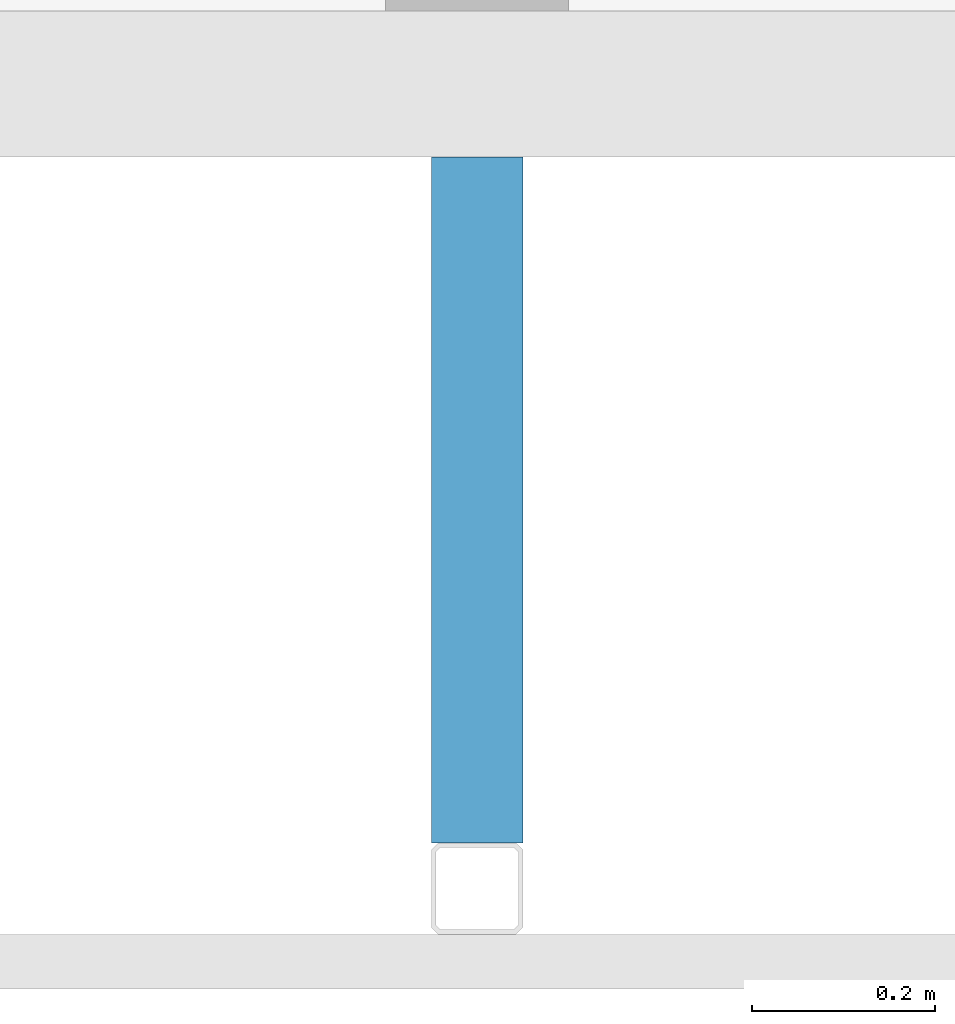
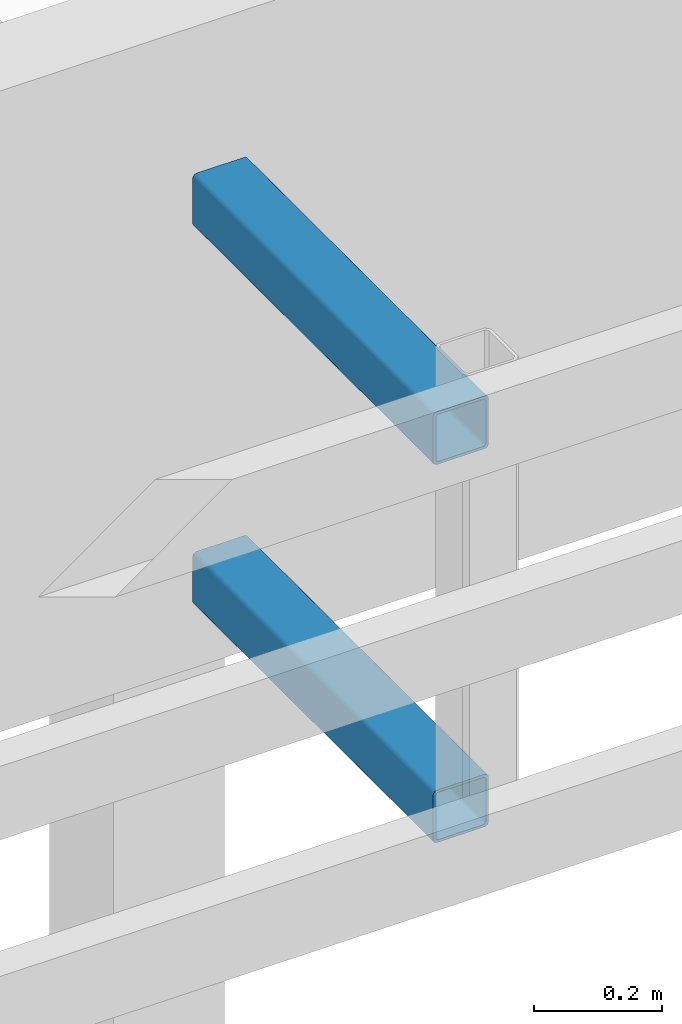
# One storey, part 13 of 44: 2 members.
"""IFC4 building model written with IfcOpenShell, lengths in metres."""

from ifc_helpers import new_model, entity, si_unit, converted_unit, derived_unit, frame, origin, place, context, subcontext, project, spatial, faceted_brep, material, element, save


model = new_model("IFC4")

# Units and contexts
model_context = context("Model", 3, precision=1e-05, world=origin())
plan_context = context("Plan", 2, precision=1e-05, world=origin())
body_context = subcontext(model_context, "Body", "Model", "MODEL_VIEW")
ifc_project = project(units=[si_unit("LENGTHUNIT", "METRE"), si_unit("AREAUNIT", "SQUARE_METRE"), si_unit("VOLUMEUNIT", "CUBIC_METRE"), si_unit("MASSUNIT", "GRAM", prefix="KILO"), converted_unit("PLANEANGLEUNIT", "DEGREE", entity("IfcPlaneAngleMeasure", 0.0174532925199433), si_unit("PLANEANGLEUNIT", "RADIAN"), dimensions=[0, 0, 0, 0, 0, 0, 0]), derived_unit("THERMALTRANSMITTANCEUNIT", [(si_unit("POWERUNIT", "WATT"), 1), (si_unit("THERMODYNAMICTEMPERATUREUNIT", "KELVIN"), -1), (si_unit("LENGTHUNIT", "METRE"), -2)]), derived_unit("VOLUMETRICFLOWRATEUNIT", [(si_unit("LENGTHUNIT", "METRE"), 3), (converted_unit("TIMEUNIT", "hour", entity("IfcTimeMeasure", 3600.0), si_unit("TIMEUNIT", "SECOND"), dimensions=[0, 0, 1, 0, 0, 0, 0]), -1), (si_unit("LENGTHUNIT", "METRE"), -1)])], contexts=[model_context, plan_context])

# Site, building, storey
site_placement = place(None, origin())
site = spatial("IfcSite", under=ifc_project, at=site_placement, Name="Site", CompositionType="ELEMENT")
building_placement = place(site_placement, origin())
building = spatial("IfcBuilding", under=site, at=building_placement, Name="Admin", CompositionType="ELEMENT")
storey_placement = place(building_placement, frame((0.0, 0.0, 3.25)))
storey = spatial("IfcBuildingStorey", under=building, at=storey_placement, Name="01-Etage1", CompositionType="ELEMENT", Elevation=3.25)

# Members
ifc_material_1 = material(Name="S235")
member_1_placement = place(storey_placement, frame((38.1998010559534, 11.1194493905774, 3.54)))
element("IfcMember", 1, at=member_1_placement, inside=storey, material=ifc_material_1, Name="Bandeau R+1", context=body_context, shape_type="Brep", body=[
    faceted_brep([(0.095, 0.0, 0.09), (0.095, 0.0, 0.01), (0.0950000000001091, 0.749999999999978, 0.01), (0.0950000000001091, 0.749999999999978, 0.09), (0.0949240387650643, 0.0, 0.0908682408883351), (0.0949240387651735, 0.749999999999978, 0.0908682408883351), (0.0946984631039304, 0.0, 0.0917101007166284), (0.0946984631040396, 0.749999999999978, 0.0917101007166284), (0.0943301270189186, 0.0, 0.0925), (0.0943301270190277, 0.749999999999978, 0.0925), (0.093830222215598, 0.0, 0.0932139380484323), (0.0938302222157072, 0.749999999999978, 0.0932139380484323), (0.0932139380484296, 1.81898940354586e-15, 0.0938302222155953), (0.0932139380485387, 0.74999999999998, 0.0938302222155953), (0.0925, 1.81898940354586e-15, 0.0943301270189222), (0.0925000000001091, 0.74999999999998, 0.0943301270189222), (0.0917101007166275, 1.81898940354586e-15, 0.0946984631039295), (0.0917101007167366, 0.74999999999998, 0.0946984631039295), (0.0908682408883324, 1.81898940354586e-15, 0.0949240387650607), (0.0908682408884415, 0.74999999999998, 0.0949240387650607), (0.09, 1.81898940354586e-15, 0.095), (0.0900000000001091, 0.74999999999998, 0.095), (0.01, 1.2732925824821e-14, 0.095), (0.0100000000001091, 0.749999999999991, 0.095), (0.00913175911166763, 1.2732925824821e-14, 0.0949240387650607), (0.00913175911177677, 0.749999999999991, 0.0949240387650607), (0.00828989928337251, 1.2732925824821e-14, 0.0946984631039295), (0.00828989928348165, 0.749999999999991, 0.0946984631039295), (0.0075, 1.2732925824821e-14, 0.0943301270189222), (0.00750000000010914, 0.749999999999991, 0.0943301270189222), (0.00678606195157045, 1.2732925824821e-14, 0.0938302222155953), (0.00678606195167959, 0.749999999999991, 0.0938302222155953), (0.00616977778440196, 1.45519152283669e-14, 0.0932139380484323), (0.0061697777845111, 0.749999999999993, 0.0932139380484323), (0.00566987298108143, 1.45519152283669e-14, 0.0925), (0.00566987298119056, 0.749999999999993, 0.0925), (0.00530153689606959, 1.45519152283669e-14, 0.0917101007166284), (0.00530153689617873, 0.749999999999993, 0.0917101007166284), (0.00507596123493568, 1.45519152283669e-14, 0.0908682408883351), (0.00507596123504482, 0.749999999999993, 0.0908682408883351), (0.005, 1.45519152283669e-14, 0.09), (0.00500000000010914, 0.749999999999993, 0.09), (0.005, 1.45519152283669e-14, 0.01), (0.00500000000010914, 0.749999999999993, 0.01), (0.00507596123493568, 1.45519152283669e-14, 0.00913175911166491), (0.00507596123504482, 0.749999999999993, 0.00913175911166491), (0.00530153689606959, 1.45519152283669e-14, 0.0082898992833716), (0.00530153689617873, 0.749999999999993, 0.0082898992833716), (0.00566987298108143, 1.45519152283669e-14, 0.0075), (0.00566987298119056, 0.749999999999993, 0.0075), (0.00616977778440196, 1.45519152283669e-14, 0.00678606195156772), (0.0061697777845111, 0.749999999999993, 0.00678606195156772), (0.00678606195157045, 1.2732925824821e-14, 0.00616977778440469), (0.00678606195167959, 0.749999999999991, 0.00616977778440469), (0.0075, 1.2732925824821e-14, 0.00566987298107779), (0.00750000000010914, 0.749999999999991, 0.00566987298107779), (0.00828989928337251, 1.2732925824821e-14, 0.0053015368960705), (0.00828989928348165, 0.749999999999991, 0.0053015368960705), (0.00913175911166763, 1.2732925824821e-14, 0.00507596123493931), (0.00913175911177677, 0.749999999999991, 0.00507596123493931), (0.01, 1.2732925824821e-14, 0.005), (0.0100000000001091, 0.749999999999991, 0.005), (0.09, 1.81898940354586e-15, 0.005), (0.0900000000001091, 0.74999999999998, 0.005), (0.0908682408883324, 1.81898940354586e-15, 0.00507596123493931), (0.0908682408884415, 0.74999999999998, 0.00507596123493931), (0.0917101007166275, 1.81898940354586e-15, 0.0053015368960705), (0.0917101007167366, 0.74999999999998, 0.0053015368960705), (0.0925, 1.81898940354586e-15, 0.00566987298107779), (0.0925000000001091, 0.74999999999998, 0.00566987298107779), (0.0932139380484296, 1.81898940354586e-15, 0.00616977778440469), (0.0932139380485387, 0.74999999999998, 0.00616977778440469), (0.093830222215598, 0.0, 0.00678606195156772), (0.0938302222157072, 0.749999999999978, 0.00678606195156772), (0.0943301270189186, 0.0, 0.0075), (0.0943301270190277, 0.749999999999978, 0.0075), (0.0946984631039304, 0.0, 0.0082898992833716), (0.0946984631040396, 0.749999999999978, 0.0082898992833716), (0.0949240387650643, 0.0, 0.00913175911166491), (0.0949240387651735, 0.749999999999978, 0.00913175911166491), (0.0075, 1.2732925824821e-14, 0.1), (0.00619763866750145, 1.45519152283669e-14, 0.0998860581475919), (0.00619763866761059, 0.749999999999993, 0.0998860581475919), (0.00750000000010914, 0.749999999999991, 0.1), (0.0925, 1.81898940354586e-15, 0.1), (0.0925000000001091, 0.74999999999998, 0.1), (0.0938023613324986, 0.0, 0.0998860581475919), (0.0938023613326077, 0.749999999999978, 0.0998860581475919), (0.0950651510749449, 0.0, 0.0995476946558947), (0.095065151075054, 0.749999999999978, 0.0995476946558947), (0.09625, 0.0, 0.0989951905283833), (0.0962500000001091, 0.749999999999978, 0.0989951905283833), (0.0973209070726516, 0.0, 0.0982453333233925), (0.0973209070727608, 0.749999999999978, 0.0982453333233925), (0.0982453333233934, 0.0, 0.0973209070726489), (0.0982453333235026, 0.749999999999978, 0.0973209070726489), (0.0989951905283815, 0.0, 0.09625), (0.0989951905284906, 0.749999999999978, 0.09625), (0.099547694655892, 0.0, 0.0950651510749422), (0.0995476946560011, 0.749999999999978, 0.0950651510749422), (0.0998860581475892, 0.0, 0.0938023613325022), (0.0998860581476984, 0.749999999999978, 0.0938023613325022), (0.1, 0.0, 0.0925), (0.100000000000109, 0.749999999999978, 0.0925), (0.0998860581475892, 0.0, 0.00619763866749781), (0.1, 0.0, 0.0075), (0.100000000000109, 0.749999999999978, 0.0075), (0.0998860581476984, 0.749999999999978, 0.00619763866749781), (0.099547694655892, 0.0, 0.00493484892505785), (0.0995476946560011, 0.749999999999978, 0.00493484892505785), (0.0989951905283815, 0.0, 0.00375), (0.0989951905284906, 0.749999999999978, 0.00375), (0.0982453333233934, 0.0, 0.00267909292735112), (0.0982453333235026, 0.749999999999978, 0.00267909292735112), (0.0973209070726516, 0.0, 0.00175466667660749), (0.0973209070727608, 0.749999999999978, 0.00175466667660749), (0.09625, 0.0, 0.00100480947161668), (0.0962500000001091, 0.749999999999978, 0.00100480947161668), (0.0950651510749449, 0.0, 0.000452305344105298), (0.095065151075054, 0.749999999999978, 0.000452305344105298), (0.0938023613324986, 0.0, 0.000113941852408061), (0.0938023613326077, 0.749999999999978, 0.000113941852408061), (0.0925, 1.81898940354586e-15, 0.0), (0.0925000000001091, 0.74999999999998, 0.0), (0.0075, 1.2732925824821e-14, 0.0), (0.00750000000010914, 0.749999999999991, 0.0), (0.00619763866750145, 1.45519152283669e-14, 0.000113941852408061), (0.00619763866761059, 0.749999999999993, 0.000113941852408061), (0.00493484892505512, 1.45519152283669e-14, 0.000452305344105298), (0.00493484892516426, 0.749999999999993, 0.000452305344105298), (0.00375, 1.45519152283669e-14, 0.00100480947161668), (0.00375000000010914, 0.749999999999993, 0.00100480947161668), (0.00267909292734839, 1.45519152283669e-14, 0.00175466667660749), (0.00267909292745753, 0.749999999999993, 0.00175466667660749), (0.00175466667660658, 1.45519152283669e-14, 0.00267909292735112), (0.00175466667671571, 0.749999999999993, 0.00267909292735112), (0.0010048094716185, 1.45519152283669e-14, 0.00375), (0.00100480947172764, 0.749999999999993, 0.00375), (0.000452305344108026, 1.45519152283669e-14, 0.00493484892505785), (0.000452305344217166, 0.749999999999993, 0.00493484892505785), (0.00011394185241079, 1.45519152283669e-14, 0.00619763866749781), (0.000113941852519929, 0.749999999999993, 0.00619763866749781), (0.0, 0.0, 0.0075), (1.09139364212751e-13, 0.749999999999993, 0.0075), (0.00011394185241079, 1.45519152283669e-14, 0.0938023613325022), (0.0, -1.81898940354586e-15, 0.0925), (1.09139364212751e-13, 0.749999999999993, 0.0925), (0.000113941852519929, 0.749999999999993, 0.0938023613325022), (0.000452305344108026, 1.45519152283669e-14, 0.0950651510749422), (0.000452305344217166, 0.749999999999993, 0.0950651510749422), (0.0010048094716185, 1.45519152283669e-14, 0.09625), (0.00100480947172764, 0.749999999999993, 0.09625), (0.00175466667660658, 1.45519152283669e-14, 0.0973209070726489), (0.00175466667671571, 0.749999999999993, 0.0973209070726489), (0.00267909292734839, 1.45519152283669e-14, 0.0982453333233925), (0.00267909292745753, 0.749999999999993, 0.0982453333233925), (0.00375, 1.45519152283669e-14, 0.0989951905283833), (0.00375000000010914, 0.749999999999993, 0.0989951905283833), (0.00493484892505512, 1.45519152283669e-14, 0.0995476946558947), (0.00493484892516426, 0.749999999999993, 0.0995476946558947)], [[[0, 1, 2, 3]], [[4, 0, 3, 5]], [[6, 4, 5, 7]], [[8, 6, 7, 9]], [[10, 8, 9, 11]], [[12, 10, 11, 13]], [[14, 12, 13, 15]], [[16, 14, 15, 17]], [[18, 16, 17, 19]], [[20, 18, 19, 21]], [[22, 20, 21, 23]], [[24, 22, 23, 25]], [[26, 24, 25, 27]], [[28, 26, 27, 29]], [[30, 28, 29, 31]], [[32, 30, 31, 33]], [[34, 32, 33, 35]], [[36, 34, 35, 37]], [[38, 36, 37, 39]], [[40, 38, 39, 41]], [[42, 40, 41, 43]], [[44, 42, 43, 45]], [[46, 44, 45, 47]], [[48, 46, 47, 49]], [[50, 48, 49, 51]], [[52, 50, 51, 53]], [[54, 52, 53, 55]], [[56, 54, 55, 57]], [[58, 56, 57, 59]], [[60, 58, 59, 61]], [[62, 60, 61, 63]], [[64, 62, 63, 65]], [[66, 64, 65, 67]], [[68, 66, 67, 69]], [[70, 68, 69, 71]], [[72, 70, 71, 73]], [[74, 72, 73, 75]], [[76, 74, 75, 77]], [[78, 76, 77, 79]], [[1, 78, 79, 2]], [[80, 81, 82, 83]], [[84, 80, 83, 85]], [[86, 84, 85, 87]], [[88, 86, 87, 89]], [[90, 88, 89, 91]], [[92, 90, 91, 93]], [[94, 92, 93, 95]], [[96, 94, 95, 97]], [[98, 96, 97, 99]], [[100, 98, 99, 101]], [[102, 100, 101, 103]], [[104, 105, 106, 107]], [[108, 104, 107, 109]], [[110, 108, 109, 111]], [[112, 110, 111, 113]], [[114, 112, 113, 115]], [[116, 114, 115, 117]], [[118, 116, 117, 119]], [[120, 118, 119, 121]], [[122, 120, 121, 123]], [[124, 122, 123, 125]], [[126, 124, 125, 127]], [[128, 126, 127, 129]], [[130, 128, 129, 131]], [[132, 130, 131, 133]], [[134, 132, 133, 135]], [[136, 134, 135, 137]], [[138, 136, 137, 139]], [[140, 138, 139, 141]], [[142, 140, 141, 143]], [[144, 145, 146, 147]], [[148, 144, 147, 149]], [[150, 148, 149, 151]], [[152, 150, 151, 153]], [[154, 152, 153, 155]], [[156, 154, 155, 157]], [[158, 156, 157, 159]], [[81, 158, 159, 82]], [[146, 143, 141, 139, 137, 135, 133, 131, 129, 127, 125, 123, 121, 119, 117, 115, 113, 111, 109, 107, 106, 103, 101, 99, 97, 95, 93, 91, 89, 87, 85, 83, 82, 159, 157, 155, 153, 151, 149, 147], [2, 79, 77, 75, 73, 71, 69, 67, 65, 63, 61, 59, 57, 55, 53, 51, 49, 47, 45, 43, 41, 39, 37, 35, 33, 31, 29, 27, 25, 23, 21, 19, 17, 15, 13, 11, 9, 7, 5, 3]], [[103, 106, 105, 102]], [[102, 105, 104, 108, 110, 112, 114, 116, 118, 120, 122, 124, 126, 128, 130, 132, 134, 136, 138, 140, 142, 145, 144, 148, 150, 152, 154, 156, 158, 81, 80, 84, 86, 88, 90, 92, 94, 96, 98, 100], [1, 0, 4, 6, 8, 10, 12, 14, 16, 18, 20, 22, 24, 26, 28, 30, 32, 34, 36, 38, 40, 42, 44, 46, 48, 50, 52, 54, 56, 58, 60, 62, 64, 66, 68, 70, 72, 74, 76, 78]], [[145, 142, 143, 146]]], orient=[[False], [False], [False], [False], [False], [False], [False], [False], [False], [False], [False], [False], [False], [False], [False], [False], [False], [False], [False], [False], [False], [False], [False], [False], [False], [False], [False], [False], [False], [False], [False], [False], [False], [False], [False], [False], [False], [False], [False], [False], [False], [False], [False], [False], [False], [False], [False], [False], [False], [False], [False], [False], [False], [False], [False], [False], [False], [False], [False], [False], [False], [False], [False], [False], [False], [False], [False], [False], [False], [False], [False], [False], [False], [False], [False], [False], [False], [False], [False, False], [False], [False, False], [False]]),
])
ifc_material_2 = material(Name="S235")
member_2_placement = place(storey_placement, frame((38.1998010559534, 11.1194493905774, 2.82)))
element("IfcMember", 2, at=member_2_placement, inside=storey, material=ifc_material_2, Name="Bandeau R+1", context=body_context, shape_type="Brep", body=[
    faceted_brep([(0.095, 0.0, 0.09), (0.095, 0.0, 0.01), (0.0950000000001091, 0.749999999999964, 0.01), (0.0950000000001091, 0.749999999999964, 0.09), (0.0949240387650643, 0.0, 0.0908682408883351), (0.0949240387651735, 0.749999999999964, 0.0908682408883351), (0.0946984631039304, 0.0, 0.0917101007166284), (0.0946984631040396, 0.749999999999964, 0.0917101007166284), (0.0943301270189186, 0.0, 0.0925), (0.0943301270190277, 0.749999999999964, 0.0925), (0.093830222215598, 0.0, 0.0932139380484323), (0.0938302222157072, 0.749999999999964, 0.0932139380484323), (0.0932139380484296, 1.81898940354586e-15, 0.0938302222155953), (0.0932139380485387, 0.749999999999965, 0.0938302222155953), (0.0925, 1.81898940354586e-15, 0.0943301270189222), (0.0925000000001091, 0.749999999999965, 0.0943301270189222), (0.0917101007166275, 1.81898940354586e-15, 0.0946984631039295), (0.0917101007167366, 0.749999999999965, 0.0946984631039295), (0.0908682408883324, 1.81898940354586e-15, 0.0949240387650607), (0.0908682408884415, 0.749999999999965, 0.0949240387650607), (0.09, 1.81898940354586e-15, 0.095), (0.0900000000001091, 0.749999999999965, 0.095), (0.01, 1.2732925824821e-14, 0.095), (0.0100000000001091, 0.749999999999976, 0.095), (0.00913175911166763, 1.2732925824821e-14, 0.0949240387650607), (0.00913175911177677, 0.749999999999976, 0.0949240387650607), (0.00828989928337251, 1.2732925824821e-14, 0.0946984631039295), (0.00828989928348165, 0.749999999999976, 0.0946984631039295), (0.0075, 1.2732925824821e-14, 0.0943301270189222), (0.00750000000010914, 0.749999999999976, 0.0943301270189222), (0.00678606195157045, 1.2732925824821e-14, 0.0938302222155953), (0.00678606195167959, 0.749999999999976, 0.0938302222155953), (0.00616977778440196, 1.45519152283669e-14, 0.0932139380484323), (0.0061697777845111, 0.749999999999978, 0.0932139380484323), (0.00566987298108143, 1.45519152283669e-14, 0.0925), (0.00566987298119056, 0.749999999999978, 0.0925), (0.00530153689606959, 1.45519152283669e-14, 0.0917101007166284), (0.00530153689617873, 0.749999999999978, 0.0917101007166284), (0.00507596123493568, 1.45519152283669e-14, 0.0908682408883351), (0.00507596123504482, 0.749999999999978, 0.0908682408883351), (0.005, 1.45519152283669e-14, 0.09), (0.00500000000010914, 0.749999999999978, 0.09), (0.005, 1.45519152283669e-14, 0.01), (0.00500000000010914, 0.749999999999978, 0.01), (0.00507596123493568, 1.45519152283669e-14, 0.00913175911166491), (0.00507596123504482, 0.749999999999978, 0.00913175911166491), (0.00530153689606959, 1.45519152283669e-14, 0.0082898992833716), (0.00530153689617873, 0.749999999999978, 0.0082898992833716), (0.00566987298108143, 1.45519152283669e-14, 0.0075), (0.00566987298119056, 0.749999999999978, 0.0075), (0.00616977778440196, 1.45519152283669e-14, 0.00678606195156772), (0.0061697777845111, 0.749999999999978, 0.00678606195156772), (0.00678606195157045, 1.2732925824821e-14, 0.00616977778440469), (0.00678606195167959, 0.749999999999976, 0.00616977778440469), (0.0075, 1.2732925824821e-14, 0.00566987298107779), (0.00750000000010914, 0.749999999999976, 0.00566987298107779), (0.00828989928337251, 1.2732925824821e-14, 0.0053015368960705), (0.00828989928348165, 0.749999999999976, 0.0053015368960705), (0.00913175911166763, 1.2732925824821e-14, 0.00507596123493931), (0.00913175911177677, 0.749999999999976, 0.00507596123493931), (0.01, 1.2732925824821e-14, 0.005), (0.0100000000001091, 0.749999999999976, 0.005), (0.09, 1.81898940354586e-15, 0.005), (0.0900000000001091, 0.749999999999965, 0.005), (0.0908682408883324, 1.81898940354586e-15, 0.00507596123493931), (0.0908682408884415, 0.749999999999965, 0.00507596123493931), (0.0917101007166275, 1.81898940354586e-15, 0.0053015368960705), (0.0917101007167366, 0.749999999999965, 0.0053015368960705), (0.0925, 1.81898940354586e-15, 0.00566987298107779), (0.0925000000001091, 0.749999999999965, 0.00566987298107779), (0.0932139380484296, 1.81898940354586e-15, 0.00616977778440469), (0.0932139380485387, 0.749999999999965, 0.00616977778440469), (0.093830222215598, 0.0, 0.00678606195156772), (0.0938302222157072, 0.749999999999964, 0.00678606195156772), (0.0943301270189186, 0.0, 0.0075), (0.0943301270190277, 0.749999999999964, 0.0075), (0.0946984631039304, 0.0, 0.0082898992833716), (0.0946984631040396, 0.749999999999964, 0.0082898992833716), (0.0949240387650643, 0.0, 0.00913175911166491), (0.0949240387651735, 0.749999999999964, 0.00913175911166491), (0.0075, 1.2732925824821e-14, 0.1), (0.00619763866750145, 1.45519152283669e-14, 0.0998860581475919), (0.00619763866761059, 0.749999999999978, 0.0998860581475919), (0.00750000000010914, 0.749999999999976, 0.1), (0.0925, 1.81898940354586e-15, 0.1), (0.0925000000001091, 0.749999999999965, 0.1), (0.0938023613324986, 0.0, 0.0998860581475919), (0.0938023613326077, 0.749999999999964, 0.0998860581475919), (0.0950651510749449, 0.0, 0.0995476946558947), (0.095065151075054, 0.749999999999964, 0.0995476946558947), (0.09625, 0.0, 0.0989951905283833), (0.0962500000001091, 0.749999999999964, 0.0989951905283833), (0.0973209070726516, 0.0, 0.0982453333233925), (0.0973209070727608, 0.749999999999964, 0.0982453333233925), (0.0982453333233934, 0.0, 0.0973209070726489), (0.0982453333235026, 0.749999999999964, 0.0973209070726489), (0.0989951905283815, 0.0, 0.09625), (0.0989951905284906, 0.749999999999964, 0.09625), (0.099547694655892, 0.0, 0.0950651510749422), (0.0995476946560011, 0.749999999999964, 0.0950651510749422), (0.0998860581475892, 0.0, 0.0938023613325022), (0.0998860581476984, 0.749999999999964, 0.0938023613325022), (0.1, 0.0, 0.0925), (0.100000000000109, 0.749999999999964, 0.0925), (0.0998860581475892, 0.0, 0.00619763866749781), (0.1, 0.0, 0.0075), (0.100000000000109, 0.749999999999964, 0.0075), (0.0998860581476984, 0.749999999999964, 0.00619763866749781), (0.099547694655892, 0.0, 0.00493484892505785), (0.0995476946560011, 0.749999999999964, 0.00493484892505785), (0.0989951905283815, 0.0, 0.00375), (0.0989951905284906, 0.749999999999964, 0.00375), (0.0982453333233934, 0.0, 0.00267909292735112), (0.0982453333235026, 0.749999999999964, 0.00267909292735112), (0.0973209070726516, 0.0, 0.00175466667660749), (0.0973209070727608, 0.749999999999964, 0.00175466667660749), (0.09625, 0.0, 0.00100480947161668), (0.0962500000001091, 0.749999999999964, 0.00100480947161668), (0.0950651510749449, 0.0, 0.000452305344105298), (0.095065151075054, 0.749999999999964, 0.000452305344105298), (0.0938023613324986, 0.0, 0.000113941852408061), (0.0938023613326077, 0.749999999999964, 0.000113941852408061), (0.0925, 1.81898940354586e-15, 0.0), (0.0925000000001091, 0.749999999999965, 0.0), (0.0075, 1.2732925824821e-14, 0.0), (0.00750000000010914, 0.749999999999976, 0.0), (0.00619763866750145, 1.45519152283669e-14, 0.000113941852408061), (0.00619763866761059, 0.749999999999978, 0.000113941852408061), (0.00493484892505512, 1.45519152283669e-14, 0.000452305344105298), (0.00493484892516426, 0.749999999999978, 0.000452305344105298), (0.00375, 1.45519152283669e-14, 0.00100480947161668), (0.00375000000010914, 0.749999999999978, 0.00100480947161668), (0.00267909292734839, 1.45519152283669e-14, 0.00175466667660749), (0.00267909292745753, 0.749999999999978, 0.00175466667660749), (0.00175466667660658, 1.45519152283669e-14, 0.00267909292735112), (0.00175466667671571, 0.749999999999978, 0.00267909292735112), (0.0010048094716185, 1.45519152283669e-14, 0.00375), (0.00100480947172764, 0.749999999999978, 0.00375), (0.000452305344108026, 1.45519152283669e-14, 0.00493484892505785), (0.000452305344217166, 0.749999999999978, 0.00493484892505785), (0.00011394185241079, 1.45519152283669e-14, 0.00619763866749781), (0.000113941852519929, 0.749999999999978, 0.00619763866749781), (0.0, 0.0, 0.0075), (1.09139364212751e-13, 0.749999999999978, 0.0075), (0.00011394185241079, 1.45519152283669e-14, 0.0938023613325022), (0.0, 0.0, 0.0925), (1.09139364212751e-13, 0.749999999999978, 0.0925), (0.000113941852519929, 0.749999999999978, 0.0938023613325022), (0.000452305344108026, 1.45519152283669e-14, 0.0950651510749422), (0.000452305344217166, 0.749999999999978, 0.0950651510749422), (0.0010048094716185, 1.45519152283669e-14, 0.09625), (0.00100480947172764, 0.749999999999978, 0.09625), (0.00175466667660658, 1.45519152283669e-14, 0.0973209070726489), (0.00175466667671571, 0.749999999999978, 0.0973209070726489), (0.00267909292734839, 1.45519152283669e-14, 0.0982453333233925), (0.00267909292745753, 0.749999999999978, 0.0982453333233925), (0.00375, 1.45519152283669e-14, 0.0989951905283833), (0.00375000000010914, 0.749999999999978, 0.0989951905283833), (0.00493484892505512, 1.45519152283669e-14, 0.0995476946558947), (0.00493484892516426, 0.749999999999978, 0.0995476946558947)], [[[0, 1, 2, 3]], [[4, 0, 3, 5]], [[6, 4, 5, 7]], [[8, 6, 7, 9]], [[10, 8, 9, 11]], [[12, 10, 11, 13]], [[14, 12, 13, 15]], [[16, 14, 15, 17]], [[18, 16, 17, 19]], [[20, 18, 19, 21]], [[22, 20, 21, 23]], [[24, 22, 23, 25]], [[26, 24, 25, 27]], [[28, 26, 27, 29]], [[30, 28, 29, 31]], [[32, 30, 31, 33]], [[34, 32, 33, 35]], [[36, 34, 35, 37]], [[38, 36, 37, 39]], [[40, 38, 39, 41]], [[42, 40, 41, 43]], [[44, 42, 43, 45]], [[46, 44, 45, 47]], [[48, 46, 47, 49]], [[50, 48, 49, 51]], [[52, 50, 51, 53]], [[54, 52, 53, 55]], [[56, 54, 55, 57]], [[58, 56, 57, 59]], [[60, 58, 59, 61]], [[62, 60, 61, 63]], [[64, 62, 63, 65]], [[66, 64, 65, 67]], [[68, 66, 67, 69]], [[70, 68, 69, 71]], [[72, 70, 71, 73]], [[74, 72, 73, 75]], [[76, 74, 75, 77]], [[78, 76, 77, 79]], [[1, 78, 79, 2]], [[80, 81, 82, 83]], [[84, 80, 83, 85]], [[86, 84, 85, 87]], [[88, 86, 87, 89]], [[90, 88, 89, 91]], [[92, 90, 91, 93]], [[94, 92, 93, 95]], [[96, 94, 95, 97]], [[98, 96, 97, 99]], [[100, 98, 99, 101]], [[102, 100, 101, 103]], [[104, 105, 106, 107]], [[108, 104, 107, 109]], [[110, 108, 109, 111]], [[112, 110, 111, 113]], [[114, 112, 113, 115]], [[116, 114, 115, 117]], [[118, 116, 117, 119]], [[120, 118, 119, 121]], [[122, 120, 121, 123]], [[124, 122, 123, 125]], [[126, 124, 125, 127]], [[128, 126, 127, 129]], [[130, 128, 129, 131]], [[132, 130, 131, 133]], [[134, 132, 133, 135]], [[136, 134, 135, 137]], [[138, 136, 137, 139]], [[140, 138, 139, 141]], [[142, 140, 141, 143]], [[144, 145, 146, 147]], [[148, 144, 147, 149]], [[150, 148, 149, 151]], [[152, 150, 151, 153]], [[154, 152, 153, 155]], [[156, 154, 155, 157]], [[158, 156, 157, 159]], [[81, 158, 159, 82]], [[146, 143, 141, 139, 137, 135, 133, 131, 129, 127, 125, 123, 121, 119, 117, 115, 113, 111, 109, 107, 106, 103, 101, 99, 97, 95, 93, 91, 89, 87, 85, 83, 82, 159, 157, 155, 153, 151, 149, 147], [2, 79, 77, 75, 73, 71, 69, 67, 65, 63, 61, 59, 57, 55, 53, 51, 49, 47, 45, 43, 41, 39, 37, 35, 33, 31, 29, 27, 25, 23, 21, 19, 17, 15, 13, 11, 9, 7, 5, 3]], [[103, 106, 105, 102]], [[102, 105, 104, 108, 110, 112, 114, 116, 118, 120, 122, 124, 126, 128, 130, 132, 134, 136, 138, 140, 142, 145, 144, 148, 150, 152, 154, 156, 158, 81, 80, 84, 86, 88, 90, 92, 94, 96, 98, 100], [1, 0, 4, 6, 8, 10, 12, 14, 16, 18, 20, 22, 24, 26, 28, 30, 32, 34, 36, 38, 40, 42, 44, 46, 48, 50, 52, 54, 56, 58, 60, 62, 64, 66, 68, 70, 72, 74, 76, 78]], [[145, 142, 143, 146]]], orient=[[False], [False], [False], [False], [False], [False], [False], [False], [False], [False], [False], [False], [False], [False], [False], [False], [False], [False], [False], [False], [False], [False], [False], [False], [False], [False], [False], [False], [False], [False], [False], [False], [False], [False], [False], [False], [False], [False], [False], [False], [False], [False], [False], [False], [False], [False], [False], [False], [False], [False], [False], [False], [False], [False], [False], [False], [False], [False], [False], [False], [False], [False], [False], [False], [False], [False], [False], [False], [False], [False], [False], [False], [False], [False], [False], [False], [False], [False], [False, False], [False], [False, False], [False]]),
])

save(model, "model.ifc")
